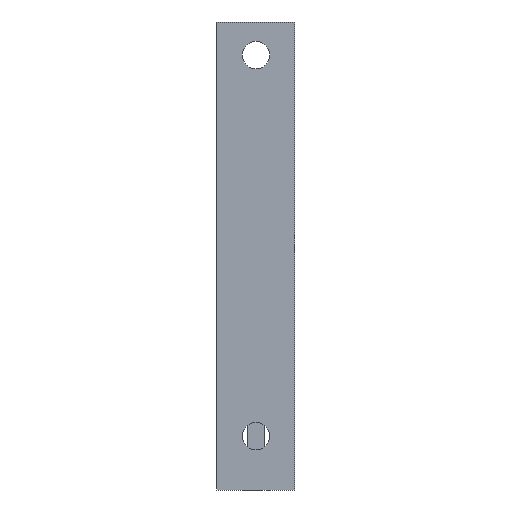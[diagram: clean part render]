
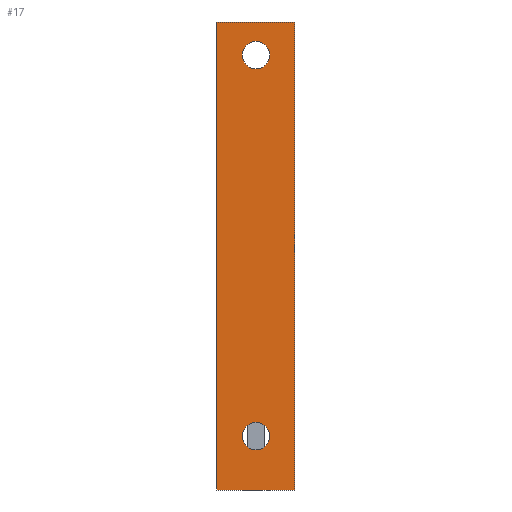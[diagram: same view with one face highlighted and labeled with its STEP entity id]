
A CAD part, left-side view. The second image highlights one B-rep face of the part: STEP entity #17.
In plain terms, the highlighted planar face has unit normal (-1, 0, 0).
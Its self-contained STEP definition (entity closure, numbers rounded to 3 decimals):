
#17 = ADVANCED_FACE('',(#18,#137,#168),#32,.F.);
#18 = FACE_BOUND('',#19,.F.);
#19 = EDGE_LOOP('',(#20,#55,#83,#111));
#20 = ORIENTED_EDGE('',*,*,#21,.F.);
#21 = EDGE_CURVE('',#22,#24,#26,.T.);
#22 = VERTEX_POINT('',#23);
#23 = CARTESIAN_POINT('',(0.,-7.5,0.));
#24 = VERTEX_POINT('',#25);
#25 = CARTESIAN_POINT('',(0.,-7.5,90.));
#26 = SURFACE_CURVE('',#27,(#31,#43),.PCURVE_S1.);
#27 = LINE('',#28,#29);
#28 = CARTESIAN_POINT('',(0.,-7.5,0.));
#29 = VECTOR('',#30,1.);
#30 = DIRECTION('',(0.,0.,1.));
#31 = PCURVE('',#32,#37);
#32 = PLANE('',#33);
#33 = AXIS2_PLACEMENT_3D('',#34,#35,#36);
#34 = CARTESIAN_POINT('',(0.,-7.5,0.));
#35 = DIRECTION('',(1.,0.,0.));
#36 = DIRECTION('',(0.,0.,1.));
#37 = DEFINITIONAL_REPRESENTATION('',(#38),#42);
#38 = LINE('',#39,#40);
#39 = CARTESIAN_POINT('',(0.,0.));
#40 = VECTOR('',#41,1.);
#41 = DIRECTION('',(1.,0.));
#42 = ( GEOMETRIC_REPRESENTATION_CONTEXT(2) 
PARAMETRIC_REPRESENTATION_CONTEXT() REPRESENTATION_CONTEXT('2D SPACE',''
  ) );
#43 = PCURVE('',#44,#49);
#44 = PLANE('',#45);
#45 = AXIS2_PLACEMENT_3D('',#46,#47,#48);
#46 = CARTESIAN_POINT('',(0.,-7.5,0.));
#47 = DIRECTION('',(0.,1.,0.));
#48 = DIRECTION('',(0.,0.,1.));
#49 = DEFINITIONAL_REPRESENTATION('',(#50),#54);
#50 = LINE('',#51,#52);
#51 = CARTESIAN_POINT('',(0.,0.));
#52 = VECTOR('',#53,1.);
#53 = DIRECTION('',(1.,0.));
#54 = ( GEOMETRIC_REPRESENTATION_CONTEXT(2) 
PARAMETRIC_REPRESENTATION_CONTEXT() REPRESENTATION_CONTEXT('2D SPACE',''
  ) );
#55 = ORIENTED_EDGE('',*,*,#56,.T.);
#56 = EDGE_CURVE('',#22,#57,#59,.T.);
#57 = VERTEX_POINT('',#58);
#58 = CARTESIAN_POINT('',(0.,7.5,0.));
#59 = SURFACE_CURVE('',#60,(#64,#71),.PCURVE_S1.);
#60 = LINE('',#61,#62);
#61 = CARTESIAN_POINT('',(0.,-7.5,0.));
#62 = VECTOR('',#63,1.);
#63 = DIRECTION('',(0.,1.,0.));
#64 = PCURVE('',#32,#65);
#65 = DEFINITIONAL_REPRESENTATION('',(#66),#70);
#66 = LINE('',#67,#68);
#67 = CARTESIAN_POINT('',(0.,0.));
#68 = VECTOR('',#69,1.);
#69 = DIRECTION('',(0.,-1.));
#70 = ( GEOMETRIC_REPRESENTATION_CONTEXT(2) 
PARAMETRIC_REPRESENTATION_CONTEXT() REPRESENTATION_CONTEXT('2D SPACE',''
  ) );
#71 = PCURVE('',#72,#77);
#72 = PLANE('',#73);
#73 = AXIS2_PLACEMENT_3D('',#74,#75,#76);
#74 = CARTESIAN_POINT('',(0.,-7.5,0.));
#75 = DIRECTION('',(0.,0.,1.));
#76 = DIRECTION('',(1.,0.,0.));
#77 = DEFINITIONAL_REPRESENTATION('',(#78),#82);
#78 = LINE('',#79,#80);
#79 = CARTESIAN_POINT('',(0.,0.));
#80 = VECTOR('',#81,1.);
#81 = DIRECTION('',(0.,1.));
#82 = ( GEOMETRIC_REPRESENTATION_CONTEXT(2) 
PARAMETRIC_REPRESENTATION_CONTEXT() REPRESENTATION_CONTEXT('2D SPACE',''
  ) );
#83 = ORIENTED_EDGE('',*,*,#84,.F.);
#84 = EDGE_CURVE('',#85,#57,#87,.T.);
#85 = VERTEX_POINT('',#86);
#86 = CARTESIAN_POINT('',(0.,7.5,90.));
#87 = SURFACE_CURVE('',#88,(#92,#99),.PCURVE_S1.);
#88 = LINE('',#89,#90);
#89 = CARTESIAN_POINT('',(0.,7.5,90.));
#90 = VECTOR('',#91,1.);
#91 = DIRECTION('',(0.,0.,-1.));
#92 = PCURVE('',#32,#93);
#93 = DEFINITIONAL_REPRESENTATION('',(#94),#98);
#94 = LINE('',#95,#96);
#95 = CARTESIAN_POINT('',(90.,-15.));
#96 = VECTOR('',#97,1.);
#97 = DIRECTION('',(-1.,0.));
#98 = ( GEOMETRIC_REPRESENTATION_CONTEXT(2) 
PARAMETRIC_REPRESENTATION_CONTEXT() REPRESENTATION_CONTEXT('2D SPACE',''
  ) );
#99 = PCURVE('',#100,#105);
#100 = PLANE('',#101);
#101 = AXIS2_PLACEMENT_3D('',#102,#103,#104);
#102 = CARTESIAN_POINT('',(0.,7.5,0.));
#103 = DIRECTION('',(0.,1.,0.));
#104 = DIRECTION('',(0.,0.,1.));
#105 = DEFINITIONAL_REPRESENTATION('',(#106),#110);
#106 = LINE('',#107,#108);
#107 = CARTESIAN_POINT('',(90.,0.));
#108 = VECTOR('',#109,1.);
#109 = DIRECTION('',(-1.,0.));
#110 = ( GEOMETRIC_REPRESENTATION_CONTEXT(2) 
PARAMETRIC_REPRESENTATION_CONTEXT() REPRESENTATION_CONTEXT('2D SPACE',''
  ) );
#111 = ORIENTED_EDGE('',*,*,#112,.F.);
#112 = EDGE_CURVE('',#24,#85,#113,.T.);
#113 = SURFACE_CURVE('',#114,(#118,#125),.PCURVE_S1.);
#114 = LINE('',#115,#116);
#115 = CARTESIAN_POINT('',(0.,-7.5,90.));
#116 = VECTOR('',#117,1.);
#117 = DIRECTION('',(0.,1.,0.));
#118 = PCURVE('',#32,#119);
#119 = DEFINITIONAL_REPRESENTATION('',(#120),#124);
#120 = LINE('',#121,#122);
#121 = CARTESIAN_POINT('',(90.,0.));
#122 = VECTOR('',#123,1.);
#123 = DIRECTION('',(0.,-1.));
#124 = ( GEOMETRIC_REPRESENTATION_CONTEXT(2) 
PARAMETRIC_REPRESENTATION_CONTEXT() REPRESENTATION_CONTEXT('2D SPACE',''
  ) );
#125 = PCURVE('',#126,#131);
#126 = PLANE('',#127);
#127 = AXIS2_PLACEMENT_3D('',#128,#129,#130);
#128 = CARTESIAN_POINT('',(0.,-7.5,90.));
#129 = DIRECTION('',(0.,0.,1.));
#130 = DIRECTION('',(1.,0.,0.));
#131 = DEFINITIONAL_REPRESENTATION('',(#132),#136);
#132 = LINE('',#133,#134);
#133 = CARTESIAN_POINT('',(0.,0.));
#134 = VECTOR('',#135,1.);
#135 = DIRECTION('',(0.,1.));
#136 = ( GEOMETRIC_REPRESENTATION_CONTEXT(2) 
PARAMETRIC_REPRESENTATION_CONTEXT() REPRESENTATION_CONTEXT('2D SPACE',''
  ) );
#137 = FACE_BOUND('',#138,.F.);
#138 = EDGE_LOOP('',(#139));
#139 = ORIENTED_EDGE('',*,*,#140,.F.);
#140 = EDGE_CURVE('',#141,#141,#143,.T.);
#141 = VERTEX_POINT('',#142);
#142 = CARTESIAN_POINT('',(-0.,2.65,83.64));
#143 = SURFACE_CURVE('',#144,(#149,#156),.PCURVE_S1.);
#144 = CIRCLE('',#145,2.65);
#145 = AXIS2_PLACEMENT_3D('',#146,#147,#148);
#146 = CARTESIAN_POINT('',(0.,0.,83.64));
#147 = DIRECTION('',(1.,0.,0.));
#148 = DIRECTION('',(0.,1.,0.));
#149 = PCURVE('',#32,#150);
#150 = DEFINITIONAL_REPRESENTATION('',(#151),#155);
#151 = CIRCLE('',#152,2.65);
#152 = AXIS2_PLACEMENT_2D('',#153,#154);
#153 = CARTESIAN_POINT('',(83.64,-7.5));
#154 = DIRECTION('',(0.,-1.));
#155 = ( GEOMETRIC_REPRESENTATION_CONTEXT(2) 
PARAMETRIC_REPRESENTATION_CONTEXT() REPRESENTATION_CONTEXT('2D SPACE',''
  ) );
#156 = PCURVE('',#157,#162);
#157 = CYLINDRICAL_SURFACE('',#158,2.65);
#158 = AXIS2_PLACEMENT_3D('',#159,#160,#161);
#159 = CARTESIAN_POINT('',(0.,0.,83.64));
#160 = DIRECTION('',(1.,0.,0.));
#161 = DIRECTION('',(0.,1.,0.));
#162 = DEFINITIONAL_REPRESENTATION('',(#163),#167);
#163 = LINE('',#164,#165);
#164 = CARTESIAN_POINT('',(0.,0.));
#165 = VECTOR('',#166,1.);
#166 = DIRECTION('',(1.,0.));
#167 = ( GEOMETRIC_REPRESENTATION_CONTEXT(2) 
PARAMETRIC_REPRESENTATION_CONTEXT() REPRESENTATION_CONTEXT('2D SPACE',''
  ) );
#168 = FACE_BOUND('',#169,.F.);
#169 = EDGE_LOOP('',(#170));
#170 = ORIENTED_EDGE('',*,*,#171,.F.);
#171 = EDGE_CURVE('',#172,#172,#174,.T.);
#172 = VERTEX_POINT('',#173);
#173 = CARTESIAN_POINT('',(-0.,2.65,10.36));
#174 = SURFACE_CURVE('',#175,(#180,#187),.PCURVE_S1.);
#175 = CIRCLE('',#176,2.65);
#176 = AXIS2_PLACEMENT_3D('',#177,#178,#179);
#177 = CARTESIAN_POINT('',(0.,0.,10.36));
#178 = DIRECTION('',(1.,0.,0.));
#179 = DIRECTION('',(0.,1.,0.));
#180 = PCURVE('',#32,#181);
#181 = DEFINITIONAL_REPRESENTATION('',(#182),#186);
#182 = CIRCLE('',#183,2.65);
#183 = AXIS2_PLACEMENT_2D('',#184,#185);
#184 = CARTESIAN_POINT('',(10.36,-7.5));
#185 = DIRECTION('',(0.,-1.));
#186 = ( GEOMETRIC_REPRESENTATION_CONTEXT(2) 
PARAMETRIC_REPRESENTATION_CONTEXT() REPRESENTATION_CONTEXT('2D SPACE',''
  ) );
#187 = PCURVE('',#188,#193);
#188 = CYLINDRICAL_SURFACE('',#189,2.65);
#189 = AXIS2_PLACEMENT_3D('',#190,#191,#192);
#190 = CARTESIAN_POINT('',(0.,0.,10.36));
#191 = DIRECTION('',(1.,0.,0.));
#192 = DIRECTION('',(0.,1.,0.));
#193 = DEFINITIONAL_REPRESENTATION('',(#194),#198);
#194 = LINE('',#195,#196);
#195 = CARTESIAN_POINT('',(0.,0.));
#196 = VECTOR('',#197,1.);
#197 = DIRECTION('',(1.,0.));
#198 = ( GEOMETRIC_REPRESENTATION_CONTEXT(2) 
PARAMETRIC_REPRESENTATION_CONTEXT() REPRESENTATION_CONTEXT('2D SPACE',''
  ) );
